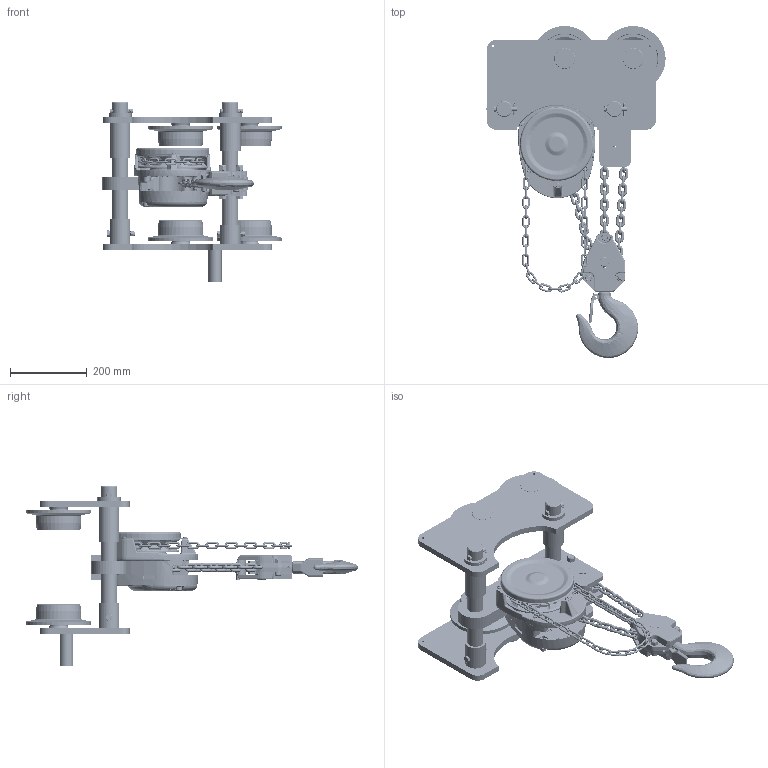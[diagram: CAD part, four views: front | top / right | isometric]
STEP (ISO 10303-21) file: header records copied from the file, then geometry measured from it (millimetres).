
FILE_DESCRIPTION (( 'STEP AP214' ), '1' );
FILE_NAME ('NTH050.STEP', '2026-08-12T19:23:16', ( '' ), ( '' ), 'SwSTEP 2.0', 'SolidWorks 2026', '' );
FILE_SCHEMA (( 'AUTOMOTIVE_DESIGN' ));
Length unit declared in the file: inch
Products named in the file (59): MS104050; HCCF005 FOR CF030; MS164030; 50726-XX_50726-01; M3041030_0.375-Clevis Pin; C3FA050-90313; 50720; C2FA015-91711; 50728XX_50728-16; 50726-XX_50726-02; 50682; 9091283_B18.3.1M - 8 x 1.25 x 75 Hex SHCS -- 65CHX; CF050_NTH050; 9009433_9009433; C1FA015-91012; C3BA050-90012; 9047135_9047135; 50723_5.12 TO 7.11 FLANGE; CF181010_CF181010; 50736; LCCF015NPW_15 Link; 6307Z Bearing; 9091296_9091296; 50722_5.12 TO 7.11 FLANGE; NTH050; 50729-XX_50729-03; CF053030; 9091285_B18.3.1M - 8 x 1.25 x 90 Hex SHCS -- 28CHX; 9093129_9093129; C1FA050-90711; 9012709_Rectangular section spring washer BS 4464 - 16 (Type B); 50728XX_50728-06; 50728XX_50728-03; CF051030; C1FA015-91052; 50456; Load Chain Link ER2W010H; LCCF015NPW_13 Link; 9098508_9098508; 9098511_9098511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
Assembly tree (183 placements, depth 5):
  NTH050
    50723_5.12 TO 7.11 FLANGE
      50720
      50728XX_50728-06
      50728XX_50728-16
      50456  x2
    50722_5.12 TO 7.11 FLANGE
      50719
      50728XX_50728-01
      50728XX_50728-03
      50456  x2
      50682
    50729-XX_50729-03  x2
    T3P1102050  x4
      T3GA0509102
      basic internal retaining ring_am_PreviewCfg
      6307Z Bearing
    50727
      50725
      50726-XX_50726-01
      50726-XX_50726-02
      9093153_9093153  x2
      9098511_9098511  x2
    CF050_NTH050
      C1FA015-91012
      C1FA015-91021
      C1FA015-91052
      C2FA015-91711
      C4FA015-91151
      9091283_B18.3.1M - 8 x 1.25 x 75 Hex SHCS -- 65CHX  x2
      9091285_B18.3.1M - 8 x 1.25 x 90 Hex SHCS -- 28CHX  x2
      CF181010_CF181010
      9012709_Rectangular section spring washer BS 4464 - 16 (Type B)  x3
      CF187005  x3
      HCCF005 FOR CF030
        HCCF005  x44
      LCCF015NPW_15 Link
        Load Chain Link ER2W010H  x15
      LCCF015NPW_13 Link
        Load Chain Link ER2W010H  x13
      CF021A050
        CF031050
          C3FA050-90313  x2
        C3BA050-90012
        9091296_9091296  x2
        9098508_9098508  x2
        CF053030
        C1FA050-90711
        CF051030
      M3041030_0.375-Clevis Pin
      M2049010
      9009411_9009411
      LCCF015NPW_17 LINK
        Load Chain Link ER2W010H  x17
      ES857005S  x4
    50736  x6
    9093129_9093129  x2
    9098506_9098506  x2
    MS104050  x4
    MS164030  x2
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Bounding box: 465.87 x 862.91 x 468.31 mm (x, y, z)
Volume: 10179471.4 mm3; surface area: 2309709.7 mm2
Topology: 174 solids, 190 shells, 9430 faces, 23486 edges, 14349 vertices
Faces by surface type: plane 2921, torus 2008, cylinder 1967, bspline 1395, cone 1116, sphere 23
Entity records: 300414 total; most frequent: CARTESIAN_POINT 151343, ORIENTED_EDGE 31498, DIRECTION 28805, EDGE_CURVE 15751, AXIS2_PLACEMENT_3D 11794, VERTEX_POINT 9601, EDGE_LOOP 6824, CIRCLE 6450
